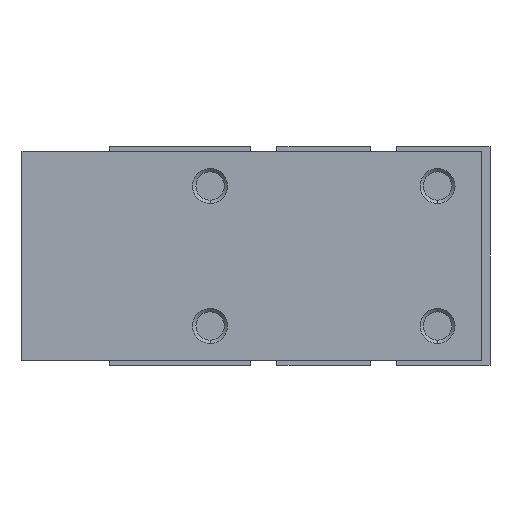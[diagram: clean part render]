
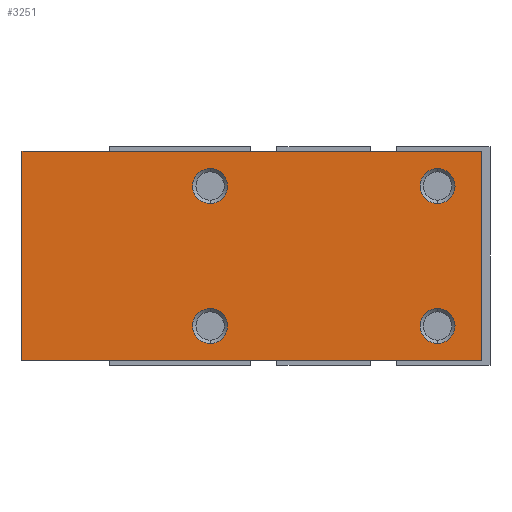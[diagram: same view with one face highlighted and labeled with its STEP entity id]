
A CAD part, left-side view. The second image highlights one B-rep face of the part: STEP entity #3251.
In plain terms, the highlighted planar face has unit normal (-1, 0, 0).
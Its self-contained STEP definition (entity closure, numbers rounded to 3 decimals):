
#29 = VERTEX_POINT ( 'NONE', #32 ) ;
#32 = CARTESIAN_POINT ( 'NONE',  ( -14., 13., -10. ) ) ;
#40 = CARTESIAN_POINT ( 'NONE',  ( -14., -18., -12. ) ) ;
#128 = CARTESIAN_POINT ( 'NONE',  ( -14., -13., -8. ) ) ;
#158 = ORIENTED_EDGE ( 'NONE', *, *, #2484, .F. ) ;
#164 = CIRCLE ( 'NONE', #3338, 2. ) ;
#302 = FACE_OUTER_BOUND ( 'NONE', #5226, .T. ) ;
#460 = AXIS2_PLACEMENT_3D ( 'NONE', #523, #4074, #4558 ) ;
#523 = CARTESIAN_POINT ( 'NONE',  ( -14., 13., -8. ) ) ;
#663 = AXIS2_PLACEMENT_3D ( 'NONE', #5827, #2122, #5793 ) ;
#698 = ORIENTED_EDGE ( 'NONE', *, *, #3803, .F. ) ;
#743 = VERTEX_POINT ( 'NONE', #40 ) ;
#783 = VERTEX_POINT ( 'NONE', #2356 ) ;
#878 = EDGE_LOOP ( 'NONE', ( #993, #698 ) ) ;
#929 = EDGE_CURVE ( 'NONE', #783, #2590, #2809, .T. ) ;
#993 = ORIENTED_EDGE ( 'NONE', *, *, #1180, .F. ) ;
#1058 = CARTESIAN_POINT ( 'NONE',  ( -14., 13., -8. ) ) ;
#1063 = CIRCLE ( 'NONE', #2974, 2. ) ;
#1075 = CIRCLE ( 'NONE', #5189, 2. ) ;
#1107 = CARTESIAN_POINT ( 'NONE',  ( -14., -13., -6. ) ) ;
#1180 = EDGE_CURVE ( 'NONE', #4912, #2363, #1063, .T. ) ;
#1234 = FACE_BOUND ( 'NONE', #2554, .T. ) ;
#1275 = DIRECTION ( 'NONE',  ( 0., 1., 0. ) ) ;
#1347 = DIRECTION ( 'NONE',  ( -1., 0., 0. ) ) ;
#1398 = LINE ( 'NONE', #3201, #5253 ) ;
#1496 = DIRECTION ( 'NONE',  ( 0., 0., 1. ) ) ;
#1676 = CARTESIAN_POINT ( 'NONE',  ( -14., 34.5, 12. ) ) ;
#1719 = FACE_BOUND ( 'NONE', #878, .T. ) ;
#1724 = CARTESIAN_POINT ( 'NONE',  ( -14., 34.5, 12. ) ) ;
#1737 = ORIENTED_EDGE ( 'NONE', *, *, #4293, .F. ) ;
#1865 = ORIENTED_EDGE ( 'NONE', *, *, #4665, .F. ) ;
#2061 = DIRECTION ( 'NONE',  ( 0., 0., 1. ) ) ;
#2086 = CARTESIAN_POINT ( 'NONE',  ( -14., 13., 8. ) ) ;
#2120 = AXIS2_PLACEMENT_3D ( 'NONE', #128, #4851, #2531 ) ;
#2122 = DIRECTION ( 'NONE',  ( -1., 0., 0. ) ) ;
#2142 = FACE_BOUND ( 'NONE', #4223, .T. ) ;
#2205 = DIRECTION ( 'NONE',  ( 0., 0., -1. ) ) ;
#2356 = CARTESIAN_POINT ( 'NONE',  ( -14., -13., -10. ) ) ;
#2363 = VERTEX_POINT ( 'NONE', #3281 ) ;
#2369 = ORIENTED_EDGE ( 'NONE', *, *, #4222, .F. ) ;
#2484 = EDGE_CURVE ( 'NONE', #3979, #29, #164, .T. ) ;
#2493 = CIRCLE ( 'NONE', #4303, 2. ) ;
#2531 = DIRECTION ( 'NONE',  ( 0., 0., 1. ) ) ;
#2554 = EDGE_LOOP ( 'NONE', ( #158, #3793 ) ) ;
#2562 = EDGE_CURVE ( 'NONE', #3892, #743, #3328, .T. ) ;
#2575 = CARTESIAN_POINT ( 'NONE',  ( -14., 13., 6. ) ) ;
#2578 = ORIENTED_EDGE ( 'NONE', *, *, #2854, .T. ) ;
#2588 = AXIS2_PLACEMENT_3D ( 'NONE', #5340, #4447, #1275 ) ;
#2590 = VERTEX_POINT ( 'NONE', #1107 ) ;
#2655 = LINE ( 'NONE', #4866, #4389 ) ;
#2700 = DIRECTION ( 'NONE',  ( 0., 0., -1. ) ) ;
#2809 = CIRCLE ( 'NONE', #2120, 2. ) ;
#2854 = EDGE_CURVE ( 'NONE', #2916, #3892, #2655, .T. ) ;
#2891 = DIRECTION ( 'NONE',  ( 0., 0., 1. ) ) ;
#2916 = VERTEX_POINT ( 'NONE', #1724 ) ;
#2933 = CARTESIAN_POINT ( 'NONE',  ( -14., 13., -6. ) ) ;
#2937 = DIRECTION ( 'NONE',  ( 0., -1., 0. ) ) ;
#2974 = AXIS2_PLACEMENT_3D ( 'NONE', #4643, #3296, #1496 ) ;
#3182 = CARTESIAN_POINT ( 'NONE',  ( -14., -13., 8. ) ) ;
#3201 = CARTESIAN_POINT ( 'NONE',  ( -14., -18., 12. ) ) ;
#3243 = AXIS2_PLACEMENT_3D ( 'NONE', #3182, #4642, #4619 ) ;
#3251 = ADVANCED_FACE ( 'NONE', ( #302, #1234, #1719, #3579, #2142 ), #3546, .F. ) ;
#3281 = CARTESIAN_POINT ( 'NONE',  ( -14., -13., 6. ) ) ;
#3296 = DIRECTION ( 'NONE',  ( -1., 0., 0. ) ) ;
#3328 = LINE ( 'NONE', #5154, #4384 ) ;
#3338 = AXIS2_PLACEMENT_3D ( 'NONE', #1058, #4805, #2891 ) ;
#3391 = EDGE_LOOP ( 'NONE', ( #1737, #4058 ) ) ;
#3486 = CARTESIAN_POINT ( 'NONE',  ( -14., 13., 10. ) ) ;
#3505 = DIRECTION ( 'NONE',  ( 0., -1., 0. ) ) ;
#3546 = PLANE ( 'NONE',  #2588 ) ;
#3579 = FACE_BOUND ( 'NONE', #3391, .T. ) ;
#3615 = DIRECTION ( 'NONE',  ( 0., 0., 1. ) ) ;
#3787 = EDGE_CURVE ( 'NONE', #2916, #5622, #4404, .T. ) ;
#3793 = ORIENTED_EDGE ( 'NONE', *, *, #3855, .F. ) ;
#3803 = EDGE_CURVE ( 'NONE', #2363, #4912, #5444, .T. ) ;
#3816 = VECTOR ( 'NONE', #3505, 1000. ) ;
#3855 = EDGE_CURVE ( 'NONE', #29, #3979, #5917, .T. ) ;
#3892 = VERTEX_POINT ( 'NONE', #4102 ) ;
#3916 = CIRCLE ( 'NONE', #663, 2. ) ;
#3979 = VERTEX_POINT ( 'NONE', #2933 ) ;
#4036 = CARTESIAN_POINT ( 'NONE',  ( -14., -13., -8. ) ) ;
#4058 = ORIENTED_EDGE ( 'NONE', *, *, #929, .F. ) ;
#4074 = DIRECTION ( 'NONE',  ( -1., 0., 0. ) ) ;
#4102 = CARTESIAN_POINT ( 'NONE',  ( -14., 34.5, -12. ) ) ;
#4135 = VERTEX_POINT ( 'NONE', #2575 ) ;
#4222 = EDGE_CURVE ( 'NONE', #5622, #743, #1398, .T. ) ;
#4223 = EDGE_LOOP ( 'NONE', ( #5093, #1865 ) ) ;
#4293 = EDGE_CURVE ( 'NONE', #2590, #783, #2493, .T. ) ;
#4303 = AXIS2_PLACEMENT_3D ( 'NONE', #4036, #1347, #3615 ) ;
#4384 = VECTOR ( 'NONE', #2937, 1000. ) ;
#4389 = VECTOR ( 'NONE', #2205, 1000. ) ;
#4404 = LINE ( 'NONE', #1676, #3816 ) ;
#4447 = DIRECTION ( 'NONE',  ( 1., 0., 0. ) ) ;
#4466 = VERTEX_POINT ( 'NONE', #3486 ) ;
#4558 = DIRECTION ( 'NONE',  ( 0., 0., 1. ) ) ;
#4619 = DIRECTION ( 'NONE',  ( 0., 0., 1. ) ) ;
#4642 = DIRECTION ( 'NONE',  ( -1., 0., 0. ) ) ;
#4643 = CARTESIAN_POINT ( 'NONE',  ( -14., -13., 8. ) ) ;
#4665 = EDGE_CURVE ( 'NONE', #4135, #4466, #3916, .T. ) ;
#4718 = ORIENTED_EDGE ( 'NONE', *, *, #3787, .F. ) ;
#4805 = DIRECTION ( 'NONE',  ( -1., 0., 0. ) ) ;
#4851 = DIRECTION ( 'NONE',  ( -1., 0., 0. ) ) ;
#4866 = CARTESIAN_POINT ( 'NONE',  ( -14., 34.5, 12. ) ) ;
#4912 = VERTEX_POINT ( 'NONE', #5199 ) ;
#5093 = ORIENTED_EDGE ( 'NONE', *, *, #5762, .F. ) ;
#5146 = CARTESIAN_POINT ( 'NONE',  ( -14., -18., 12. ) ) ;
#5154 = CARTESIAN_POINT ( 'NONE',  ( -14., 34.5, -12. ) ) ;
#5176 = ORIENTED_EDGE ( 'NONE', *, *, #2562, .T. ) ;
#5189 = AXIS2_PLACEMENT_3D ( 'NONE', #2086, #5737, #2061 ) ;
#5199 = CARTESIAN_POINT ( 'NONE',  ( -14., -13., 10. ) ) ;
#5226 = EDGE_LOOP ( 'NONE', ( #5176, #2369, #4718, #2578 ) ) ;
#5253 = VECTOR ( 'NONE', #2700, 1000. ) ;
#5340 = CARTESIAN_POINT ( 'NONE',  ( -14., 34.5, 12. ) ) ;
#5444 = CIRCLE ( 'NONE', #3243, 2. ) ;
#5622 = VERTEX_POINT ( 'NONE', #5146 ) ;
#5737 = DIRECTION ( 'NONE',  ( -1., 0., 0. ) ) ;
#5762 = EDGE_CURVE ( 'NONE', #4466, #4135, #1075, .T. ) ;
#5793 = DIRECTION ( 'NONE',  ( 0., 0., 1. ) ) ;
#5827 = CARTESIAN_POINT ( 'NONE',  ( -14., 13., 8. ) ) ;
#5917 = CIRCLE ( 'NONE', #460, 2. ) ;
